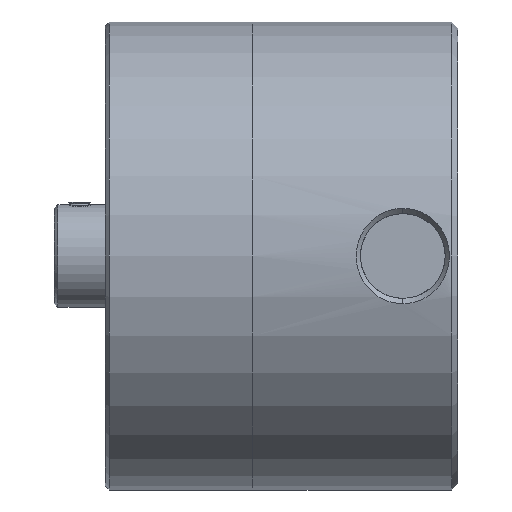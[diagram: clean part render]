
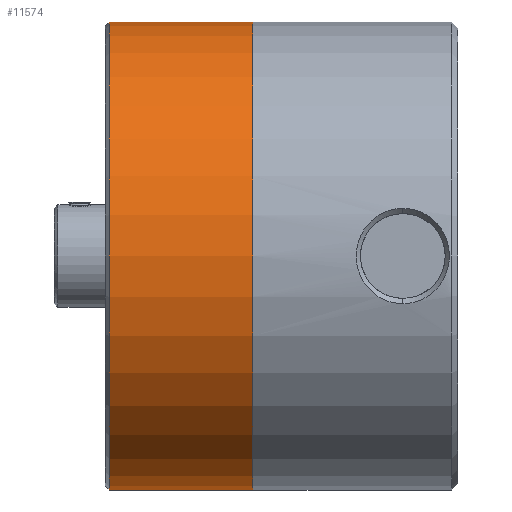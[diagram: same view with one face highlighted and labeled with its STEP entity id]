
A CAD part, front view. The second image highlights one B-rep face of the part: STEP entity #11574.
In plain terms, the highlighted cylindrical face has radius 18.25 mm (diameter 36.5 mm), a partial arc.
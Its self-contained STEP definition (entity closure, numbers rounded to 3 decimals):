
#154 = EDGE_CURVE ( 'NONE', #5869, #18467, #15535, .T. ) ;
#417 = EDGE_CURVE ( 'NONE', #8895, #41068, #34855, .T. ) ;
#3657 = CARTESIAN_POINT ( 'NONE',  ( 0.196, 21.101, 34.382 ) ) ;
#5144 = FACE_OUTER_BOUND ( 'NONE', #23838, .T. ) ;
#5869 = VERTEX_POINT ( 'NONE', #18081 ) ;
#8761 = CARTESIAN_POINT ( 'NONE',  ( 11.696, 21.101, 34.382 ) ) ;
#8895 = VERTEX_POINT ( 'NONE', #32228 ) ;
#9163 = DIRECTION ( 'NONE',  ( -1., 0., 0. ) ) ;
#11574 = ADVANCED_FACE ( 'NONE', ( #5144 ), #28366, .T. ) ;
#12278 = DIRECTION ( 'NONE',  ( 0., 0., 1. ) ) ;
#13968 = EDGE_CURVE ( 'NONE', #5869, #8895, #35918, .T. ) ;
#14808 = DIRECTION ( 'NONE',  ( -1., 0., 0. ) ) ;
#14861 = EDGE_CURVE ( 'NONE', #18467, #41068, #35306, .T. ) ;
#15535 = LINE ( 'NONE', #34015, #33818 ) ;
#15993 = CARTESIAN_POINT ( 'NONE',  ( 0.196, 21.101, 52.632 ) ) ;
#16794 = ORIENTED_EDGE ( 'NONE', *, *, #154, .F. ) ;
#17762 = CARTESIAN_POINT ( 'NONE',  ( 0.496, 21.101, 52.632 ) ) ;
#18081 = CARTESIAN_POINT ( 'NONE',  ( 11.696, 21.101, 16.132 ) ) ;
#18467 = VERTEX_POINT ( 'NONE', #27827 ) ;
#22551 = AXIS2_PLACEMENT_3D ( 'NONE', #3657, #38268, #38420 ) ;
#23838 = EDGE_LOOP ( 'NONE', ( #16794, #39432, #24331, #38938 ) ) ;
#24331 = ORIENTED_EDGE ( 'NONE', *, *, #417, .T. ) ;
#25691 = VECTOR ( 'NONE', #14808, 1000. ) ;
#27827 = CARTESIAN_POINT ( 'NONE',  ( 0.496, 21.101, 16.132 ) ) ;
#28366 = CYLINDRICAL_SURFACE ( 'NONE', #22551, 18.25 ) ;
#29780 = CARTESIAN_POINT ( 'NONE',  ( 0.496, 21.101, 34.382 ) ) ;
#32228 = CARTESIAN_POINT ( 'NONE',  ( 11.696, 21.101, 52.632 ) ) ;
#32859 = DIRECTION ( 'NONE',  ( -1., 0., 0. ) ) ;
#33275 = DIRECTION ( 'NONE',  ( 0., 0., 1. ) ) ;
#33818 = VECTOR ( 'NONE', #38744, 1000. ) ;
#34015 = CARTESIAN_POINT ( 'NONE',  ( 0.196, 21.101, 16.132 ) ) ;
#34855 = LINE ( 'NONE', #15993, #25691 ) ;
#35306 = CIRCLE ( 'NONE', #42534, 18.25 ) ;
#35918 = CIRCLE ( 'NONE', #44804, 18.25 ) ;
#38268 = DIRECTION ( 'NONE',  ( -1., 0., 0. ) ) ;
#38420 = DIRECTION ( 'NONE',  ( 0., 0., 1. ) ) ;
#38744 = DIRECTION ( 'NONE',  ( -1., 0., 0. ) ) ;
#38938 = ORIENTED_EDGE ( 'NONE', *, *, #14861, .F. ) ;
#39432 = ORIENTED_EDGE ( 'NONE', *, *, #13968, .T. ) ;
#41068 = VERTEX_POINT ( 'NONE', #17762 ) ;
#42534 = AXIS2_PLACEMENT_3D ( 'NONE', #29780, #9163, #33275 ) ;
#44804 = AXIS2_PLACEMENT_3D ( 'NONE', #8761, #32859, #12278 ) ;
